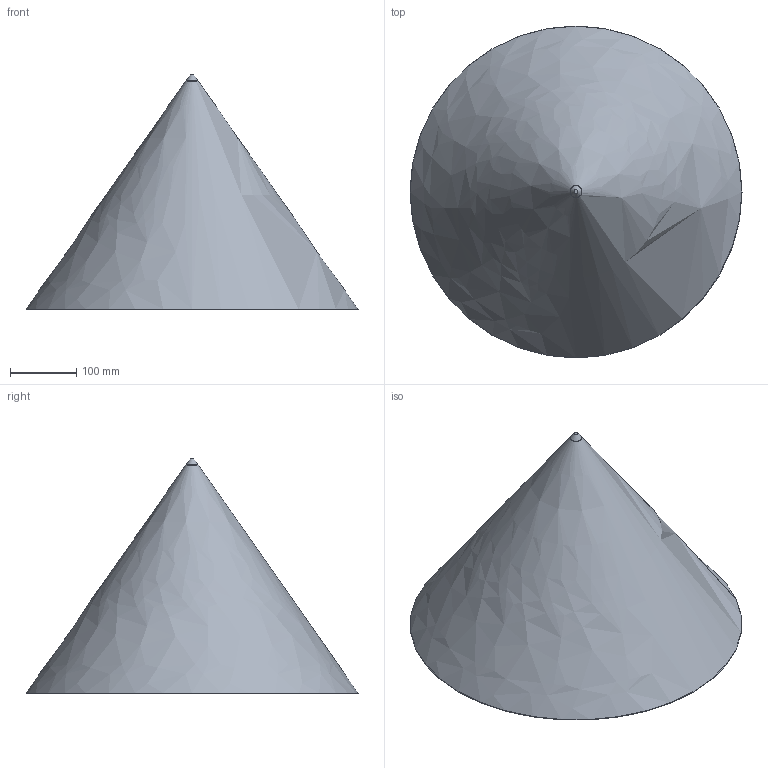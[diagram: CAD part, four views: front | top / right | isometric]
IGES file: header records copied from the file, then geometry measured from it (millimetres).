
Start section: SolidWorks IGES file using analytic representation for surfaces
Global section: file name: X:\PRODUKT\Modele 3D_WWW\_CAMELEON\KLOSZE I OPRAWY WWW\CAMELEON-ZENITH\CAMELEON-ZENITH-L-8067-8071-10195\CAMELEON-ZENITH-L-8067-8071-10195.IGS; native system: SolidWorks 2021; preprocessor: SolidWorks 2021; author: gabriela.tworek; date: 220819.133622; units: millimetre
Bounding box: 500 x 500 x 352.53 mm (x, y, z)
Surface area: 683855.5 mm2 (no closed solid volume)
Topology: 0 solids, 0 shells, 11 faces, 26 edges, 21 vertices
Faces by surface type: bspline 6, revolution 5
